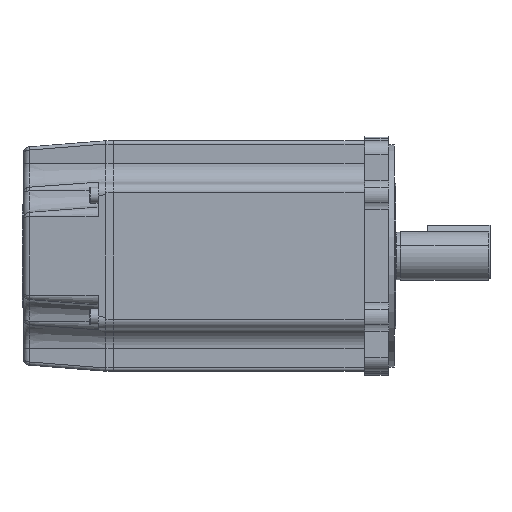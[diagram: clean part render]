
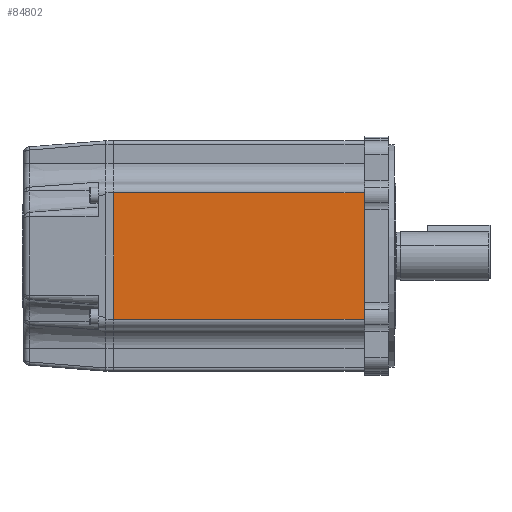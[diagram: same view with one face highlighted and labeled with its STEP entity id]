
A CAD part, front view. The second image highlights one B-rep face of the part: STEP entity #84802.
In plain terms, the highlighted planar face has unit normal (0, -1, 0).
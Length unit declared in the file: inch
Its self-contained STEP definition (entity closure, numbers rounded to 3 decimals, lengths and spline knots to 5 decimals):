
#12948 = VECTOR ( 'NONE', #152569, 39.37008 ) ;
#13474 = CARTESIAN_POINT ( 'NONE',  ( -0.48, -2.24, -1.2275 ) ) ;
#19096 = ORIENTED_EDGE ( 'NONE', *, *, #143087, .T. ) ;
#22972 = VERTEX_POINT ( 'NONE', #157745 ) ;
#26888 = CARTESIAN_POINT ( 'NONE',  ( -0.48, -2.24, -1.2275 ) ) ;
#40877 = FACE_OUTER_BOUND ( 'NONE', #114089, .T. ) ;
#43764 = VERTEX_POINT ( 'NONE', #13474 ) ;
#51370 = CARTESIAN_POINT ( 'NONE',  ( -5.35, -2.24, 1.2275 ) ) ;
#55821 = CARTESIAN_POINT ( 'NONE',  ( -0.48, -2.24, -2.24 ) ) ;
#62328 = AXIS2_PLACEMENT_3D ( 'NONE', #129019, #141543, #67095 ) ;
#64092 = VERTEX_POINT ( 'NONE', #126580 ) ;
#67095 = DIRECTION ( 'NONE',  ( 0., 0., 1. ) ) ;
#70411 = EDGE_CURVE ( 'NONE', #43764, #22972, #87963, .T. ) ;
#78131 = CARTESIAN_POINT ( 'NONE',  ( -5.35, -2.24, -2.24 ) ) ;
#80082 = EDGE_CURVE ( 'NONE', #117838, #64092, #112114, .T. ) ;
#84802 = ADVANCED_FACE ( 'NONE', ( #40877 ), #115506, .F. ) ;
#87963 = LINE ( 'NONE', #55821, #113193 ) ;
#94377 = VECTOR ( 'NONE', #101334, 39.37008 ) ;
#98205 = LINE ( 'NONE', #26888, #94377 ) ;
#100182 = ORIENTED_EDGE ( 'NONE', *, *, #80082, .F. ) ;
#101334 = DIRECTION ( 'NONE',  ( 1., 0., 0. ) ) ;
#110242 = ORIENTED_EDGE ( 'NONE', *, *, #70411, .T. ) ;
#112114 = LINE ( 'NONE', #78131, #12948 ) ;
#113193 = VECTOR ( 'NONE', #118275, 39.37008 ) ;
#114089 = EDGE_LOOP ( 'NONE', ( #110242, #117195, #100182, #19096 ) ) ;
#115506 = PLANE ( 'NONE',  #62328 ) ;
#117195 = ORIENTED_EDGE ( 'NONE', *, *, #143041, .T. ) ;
#117838 = VERTEX_POINT ( 'NONE', #152781 ) ;
#118275 = DIRECTION ( 'NONE',  ( 0., 0., 1. ) ) ;
#125769 = DIRECTION ( 'NONE',  ( -1., 0., 0. ) ) ;
#126580 = CARTESIAN_POINT ( 'NONE',  ( -5.35, -2.24, 1.2275 ) ) ;
#129019 = CARTESIAN_POINT ( 'NONE',  ( -5.35, -2.24, -2.24 ) ) ;
#135140 = LINE ( 'NONE', #51370, #160421 ) ;
#141543 = DIRECTION ( 'NONE',  ( 0., 1., 0. ) ) ;
#143041 = EDGE_CURVE ( 'NONE', #22972, #64092, #135140, .T. ) ;
#143087 = EDGE_CURVE ( 'NONE', #117838, #43764, #98205, .T. ) ;
#152569 = DIRECTION ( 'NONE',  ( 0., 0., 1. ) ) ;
#152781 = CARTESIAN_POINT ( 'NONE',  ( -5.35, -2.24, -1.2275 ) ) ;
#157745 = CARTESIAN_POINT ( 'NONE',  ( -0.48, -2.24, 1.2275 ) ) ;
#160421 = VECTOR ( 'NONE', #125769, 39.37008 ) ;
